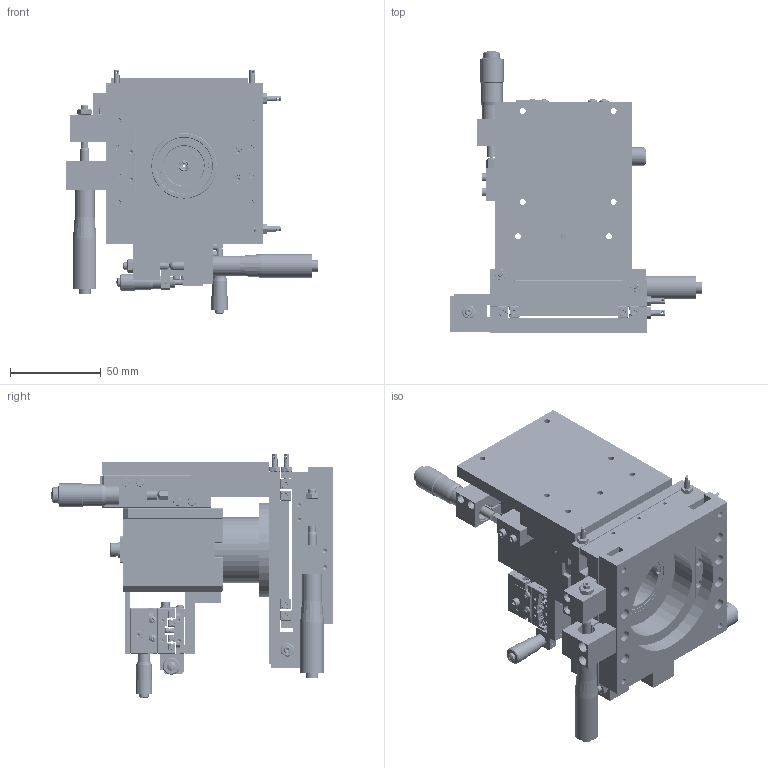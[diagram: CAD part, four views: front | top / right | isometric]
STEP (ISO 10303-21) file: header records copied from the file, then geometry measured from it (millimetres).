
FILE_DESCRIPTION (( 'STEP AP214' ), '1' );
FILE_NAME ('五轴光纤耦合器（第二版）.STEP', '2026-09-20T07:40:38', ( '' ), ( '' ), 'SwSTEP 2.0', 'SolidWorks 2024', '' );
FILE_SCHEMA (( 'AUTOMOTIVE_DESIGN' ));
Length unit declared in the file: millimetre
Products named in the file (25): BTA-D3-L15_base.stp; BTA_SLMNA-M3.stp; 微分头顶块; nv2-60.step; 零件1; 微分头锁紧块; lo-hlu-6_1 (1).step; BTA-D3-L15.stp; 零件3; 光纤法兰; 零件9; 零件7; 零件6; hex nuts, style 1-grades ab gb_GB_FASTENER_NUT_SNAB1 M4-N; M31×1卡环; 五轴光纤耦合器（第二版）; lo-hlu-6.5-2_1 (4).step; 小型XSR-25B（圆头）; hexagon socket head cap screws gb_GB_FASTENER_SCREWS_HSHCS M4X12-N; 零件22; hex socket set screws with flat point gb222_GB_FASTENER_SCREWS_HSFP M4X20-N; 零件2; 零件21; 零件5; 卡环
Assembly tree (41 placements, depth 3):
  五轴光纤耦合器（第二版）
    零件5
    nv2-60.step  x8
    零件6
    零件7
    小型XSR-25B（圆头）  x2
    微分头锁紧块  x2
    微分头顶块  x2
    hex socket set screws with flat point gb222_GB_FASTENER_SCREWS_HSFP M4X20-N  x2
    hex nuts, style 1-grades ab gb_GB_FASTENER_NUT_SNAB1 M4-N  x2
    零件9
    lo-hlu-6.5-2_1 (4).step
    零件1
    零件2
    零件3
    M31×1卡环
    lo-hlu-6_1 (1).step  x2
    零件21
    零件22
    光纤法兰
    BTA-D3-L15.stp  x4
      BTA-D3-L15_base.stp
      BTA_SLMNA-M3.stp
    hexagon socket head cap screws gb_GB_FASTENER_SCREWS_HSHCS M4X12-N  x2
    卡环
Bounding box: 138 x 155 x 134.59 mm (x, y, z)
Volume: 448461.8 mm3; surface area: 222769 mm2
Topology: 124 solids, 124 shells, 5546 faces, 13581 edges, 8376 vertices
Faces by surface type: plane 2825, cylinder 1436, cone 938, torus 272, sphere 46, bspline 29
Entity records: 98612 total; most frequent: CARTESIAN_POINT 24793, ORIENTED_EDGE 15100, DIRECTION 14829, EDGE_CURVE 7550, AXIS2_PLACEMENT_3D 5592, VERTEX_POINT 4824, EDGE_LOOP 3654, VECTOR 3645
